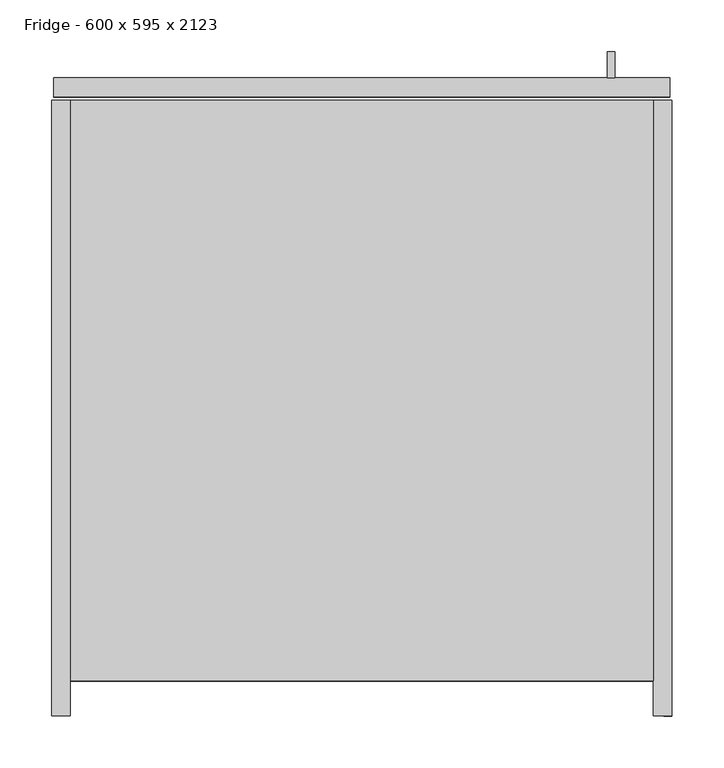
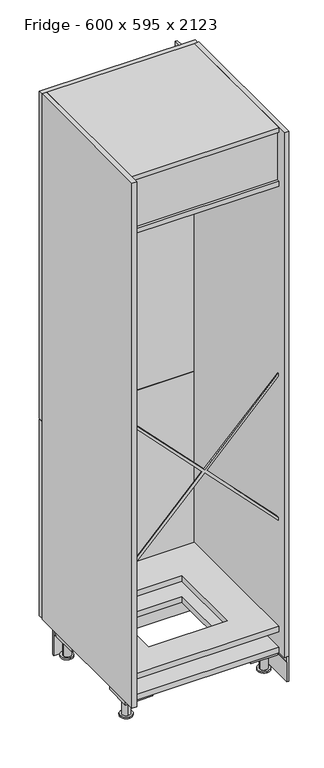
"""IFC4 building model written with IfcOpenShell, lengths in millimetres: furniture geometry, Furniture_Other-Furniture_Molteni&C_Prime_Fridge : Fridge - 600 x 595 x 2123."""

from ifc_helpers import new_model, si_unit, frame, origin, place, context, project, spatial, polyline, circle_curve, outline, extrude, source, transform, mapped, element, save
from ifc_brep_helpers import plane_surface, cylinder_surface, advanced_brep


def fridge_600_x_595_x_2123_014d46ee(model_context):
    return source(origin(), model_context, "Body", "SolidModel", [
        extrude(outline(polyline([(0.0, 292.0), (0.0, 300.0), (80.0, 300.0), (80.0, 299.0), (100.0, 299.0), (100.0, 293.0), (80.0, 293.0), (80.0, 292.0), (0.0, 292.0)])), frame((0.0, -297.5, 0.0), z_axis=(0.0, 1.0, 0.0), x_axis=(0.0, 0.0, 1.0)), (0.0, 0.0, 1.0), 516.9860925),
        advanced_brep(
        [(-263.495948, -172.491896, 0.0), (-263.495948, -219.5, 0.0), (-263.0, -180.5, 76.0), (-263.0, -210.5, 76.0), (-263.0, -210.5, 6.1757403), (-263.0, -180.5, 6.1757403), (-263.495948, -172.491896, 6.1757403), (-263.495948, -219.5, 6.1757403), (-292.0, -136.312623, 100.0), (-292.0, -240.9561273, 100.0), (-186.5940013, -240.9561273, 100.0), (-186.5940013, -210.912623, 100.0), (-261.1940013, -136.312623, 100.0), (-292.0, -136.312623, 76.0), (-261.1940013, -136.312623, 76.0), (-186.5940013, -210.912623, 76.0), (-186.5940013, -240.9561273, 76.0), (-292.0, -240.9561273, 76.0)],
        [
            (0, 1, circle_curve(frame((-263.495948, -195.995948, 0.0), z_axis=(0.0, 0.0, -1.0), x_axis=(1.0, 0.0, 0.0)), 23.504052)),
            (1, 0, circle_curve(frame((-263.495948, -195.995948, 0.0), z_axis=(0.0, 0.0, -1.0), x_axis=(1.0, 0.0, 0.0)), 23.504052)),
            (2, 3, circle_curve(frame((-263.0, -195.5, 76.0), z_axis=(0.0, 0.0, -1.0), x_axis=(1.0, 0.0, 0.0)), 15.0)),
            (3, 4),
            (4, 5, circle_curve(frame((-263.0, -195.5, 6.1757403), z_axis=(0.0, 0.0, 1.0), x_axis=(1.0, 0.0, 0.0)), 15.0)),
            (5, 2),
            (5, 4, circle_curve(frame((-263.0, -195.5, 6.1757403), z_axis=(0.0, 0.0, 1.0), x_axis=(1.0, 0.0, 0.0)), 15.0)),
            (3, 2, circle_curve(frame((-263.0, -195.5, 76.0), z_axis=(0.0, 0.0, -1.0), x_axis=(1.0, 0.0, 0.0)), 15.0)),
            (6, 7, circle_curve(frame((-263.495948, -195.995948, 6.1757403), z_axis=(0.0, 0.0, 1.0), x_axis=(1.0, 0.0, 0.0)), 23.504052)),
            (7, 6, circle_curve(frame((-263.495948, -195.995948, 6.1757403), z_axis=(0.0, 0.0, 1.0), x_axis=(1.0, 0.0, 0.0)), 23.504052)),
            (7, 1),
            (0, 6),
            (8, 9),
            (9, 10),
            (10, 11),
            (11, 12),
            (12, 8),
            (13, 14),
            (14, 15),
            (15, 16),
            (16, 17),
            (17, 13),
            (12, 14),
            (13, 8),
            (11, 15),
            (10, 16),
            (9, 17),
        ],
        [
            plane_surface(frame((-248.0, -195.5, 0.0), z_axis=(0.0, 0.0, -1.0), x_axis=(0.0, 1.0, 0.0))),
            cylinder_surface(frame((-263.0, -195.5, 0.0), z_axis=(0.0, 0.0, 1.0), x_axis=(1.0, 0.0, 0.0)), 15.0),
            plane_surface(frame((-239.991896, -195.995948, 6.1757403), z_axis=(0.0, 0.0, 1.0), x_axis=(0.0, -1.0, 0.0))),
            cylinder_surface(frame((-263.495948, -195.995948, 0.0), z_axis=(0.0, 0.0, 1.0), x_axis=(1.0, 0.0, 0.0)), 23.504052),
            plane_surface(frame((-292.0, -136.312623, 100.0), z_axis=(0.0, 0.0, 1.0), x_axis=(1.0, 0.0, 0.0))),
            plane_surface(frame((-292.0, -136.312623, 76.0), z_axis=(0.0, 0.0, -1.0), x_axis=(-1.0, 0.0, 0.0))),
            plane_surface(frame((-292.0, -136.312623, 100.0), z_axis=(0.0, 1.0, 0.0), x_axis=(0.0, 0.0, -1.0))),
            plane_surface(frame((-261.1940013, -136.312623, 100.0), z_axis=(0.7071067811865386, 0.7071067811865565, 0.0), x_axis=(0.0, 0.0, -1.0))),
            plane_surface(frame((-186.5940013, -210.912623, 100.0), z_axis=(1.0, 0.0, 0.0), x_axis=(0.0, 0.0, -1.0))),
            plane_surface(frame((-186.5940013, -240.9561273, 100.0), z_axis=(0.0, -1.0, 0.0), x_axis=(0.0, 0.0, -1.0))),
            plane_surface(frame((-292.0, -240.9561273, 100.0), z_axis=(-1.0, 0.0, 0.0), x_axis=(0.0, 0.0, -1.0))),
        ],
        [
            (0, [[1, 2]]),
            (1, [[3, 4, 5, 6]]),
            (1, [[7, -4, 8, -6]]),
            (2, [[9, 10], [-7, -5]]),
            (3, [[11, -1, 12, -10]]),
            (3, [[-12, -2, -11, -9]]),
            (4, [[13, 14, 15, 16, 17]]),
            (5, [[18, 19, 20, 21, 22], [-8, -3]]),
            (6, [[23, -18, 24, -17]]),
            (7, [[25, -19, -23, -16]]),
            (8, [[26, -20, -25, -15]]),
            (9, [[27, -21, -26, -14]]),
            (10, [[-24, -22, -27, -13]]),
        ],
    ),
        advanced_brep(
        [(263.0, -172.0, 0.0), (263.0, -219.008104, 0.0), (248.0, -195.5, 76.0), (278.0, -195.5, 76.0), (278.0, -195.5, 6.1757403), (248.0, -195.5, 6.1757403), (263.0, -172.0, 6.1757403), (263.0, -219.008104, 6.1757403), (292.0, -136.312623, 100.0), (262.8059987, -136.312623, 100.0), (188.2059987, -210.912623, 100.0), (188.2059987, -240.9561273, 100.0), (292.0, -240.9561273, 100.0), (292.0, -136.312623, 76.0), (292.0, -240.9561273, 76.0), (188.2059987, -240.9561273, 76.0), (188.2059987, -210.912623, 76.0), (262.8059987, -136.312623, 76.0)],
        [
            (0, 1, circle_curve(frame((263.0, -195.504052, 0.0), z_axis=(0.0, 0.0, -1.0), x_axis=(1.0, 0.0, 0.0)), 23.504052)),
            (1, 0, circle_curve(frame((263.0, -195.504052, 0.0), z_axis=(0.0, 0.0, -1.0), x_axis=(1.0, 0.0, 0.0)), 23.504052)),
            (2, 3, circle_curve(frame((263.0, -195.5, 76.0), z_axis=(0.0, 0.0, -1.0), x_axis=(1.0, 0.0, 0.0)), 15.0)),
            (3, 4),
            (4, 5, circle_curve(frame((263.0, -195.5, 6.1757403), z_axis=(0.0, 0.0, 1.0), x_axis=(1.0, 0.0, 0.0)), 15.0)),
            (5, 2),
            (5, 4, circle_curve(frame((263.0, -195.5, 6.1757403), z_axis=(0.0, 0.0, 1.0), x_axis=(1.0, 0.0, 0.0)), 15.0)),
            (3, 2, circle_curve(frame((263.0, -195.5, 76.0), z_axis=(0.0, 0.0, -1.0), x_axis=(1.0, 0.0, 0.0)), 15.0)),
            (6, 7, circle_curve(frame((263.0, -195.504052, 6.1757403), z_axis=(0.0, 0.0, 1.0), x_axis=(1.0, 0.0, 0.0)), 23.504052)),
            (7, 6, circle_curve(frame((263.0, -195.504052, 6.1757403), z_axis=(0.0, 0.0, 1.0), x_axis=(1.0, 0.0, 0.0)), 23.504052)),
            (7, 1),
            (0, 6),
            (8, 9),
            (9, 10),
            (10, 11),
            (11, 12),
            (12, 8),
            (13, 14),
            (14, 15),
            (15, 16),
            (16, 17),
            (17, 13),
            (12, 14),
            (13, 8),
            (11, 15),
            (10, 16),
            (9, 17),
        ],
        [
            plane_surface(frame((-248.0, -195.5, 0.0), z_axis=(0.0, 0.0, -1.0), x_axis=(0.0, 1.0, 0.0))),
            cylinder_surface(frame((263.0, -195.5, 0.0), z_axis=(0.0, 0.0, 1.0), x_axis=(1.0, 0.0, 0.0)), 15.0),
            plane_surface(frame((-239.991896, -195.995948, 6.1757403), z_axis=(0.0, 0.0, 1.0), x_axis=(0.0, -1.0, 0.0))),
            cylinder_surface(frame((263.0, -195.504052, 0.0), z_axis=(0.0, 0.0, 1.0), x_axis=(1.0, 0.0, 0.0)), 23.504052),
            plane_surface(frame((-292.0, -136.312623, 100.0), z_axis=(0.0, 0.0, 1.0), x_axis=(1.0, 0.0, 0.0))),
            plane_surface(frame((-292.0, -136.312623, 76.0), z_axis=(0.0, 0.0, -1.0), x_axis=(-1.0, 0.0, 0.0))),
            plane_surface(frame((292.0, -136.312623, 100.0), z_axis=(1.0, 0.0, 0.0), x_axis=(0.0, 0.0, -1.0))),
            plane_surface(frame((292.0, -240.9561273, 100.0), z_axis=(0.0, -1.0, 0.0), x_axis=(0.0, 0.0, -1.0))),
            plane_surface(frame((188.2059987, -240.9561273, 100.0), z_axis=(-1.0, 0.0, 0.0), x_axis=(0.0, 0.0, -1.0))),
            plane_surface(frame((188.2059987, -210.912623, 100.0), z_axis=(-0.7071067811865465, 0.7071067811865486, 0.0), x_axis=(0.0, 0.0, -1.0))),
            plane_surface(frame((262.8059987, -136.312623, 100.0), z_axis=(0.0, 1.0, 0.0), x_axis=(0.0, 0.0, -1.0))),
        ],
        [
            (0, [[1, 2]]),
            (1, [[3, 4, 5, 6]]),
            (1, [[7, -4, 8, -6]]),
            (2, [[9, 10], [-7, -5]]),
            (3, [[11, -1, 12, -10]]),
            (3, [[-12, -2, -11, -9]]),
            (4, [[13, 14, 15, 16, 17]]),
            (5, [[18, 19, 20, 21, 22], [-8, -3]]),
            (6, [[23, -18, 24, -17]]),
            (7, [[25, -19, -23, -16]]),
            (8, [[26, -20, -25, -15]]),
            (9, [[27, -21, -26, -14]]),
            (10, [[-24, -22, -27, -13]]),
        ],
    ),
        advanced_brep(
        [(262.995943, 218.9917989, 0.0), (262.995943, 171.9836949, 0.0), (248.0, 195.5, 76.0), (278.0, 195.5, 76.0), (278.0, 195.5, 6.1757403), (248.0, 195.5, 6.1757403), (262.995943, 218.9917989, 6.1757403), (262.995943, 171.9836949, 6.1757403), (292.0, 219.4860925, 100.0), (188.2059987, 219.4860925, 100.0), (188.2059987, 189.8435677, 100.0), (262.8059987, 115.2435677, 100.0), (292.0, 115.2435677, 100.0), (292.0, 219.4860925, 76.0), (292.0, 115.2435677, 76.0), (262.8059987, 115.2435677, 76.0), (188.2059987, 189.8435677, 76.0), (188.2059987, 219.4860925, 76.0)],
        [
            (0, 1, circle_curve(frame((262.995943, 195.4877469, 0.0), z_axis=(0.0, 0.0, -1.0), x_axis=(1.0, 0.0, 0.0)), 23.504052)),
            (1, 0, circle_curve(frame((262.995943, 195.4877469, 0.0), z_axis=(0.0, 0.0, -1.0), x_axis=(1.0, 0.0, 0.0)), 23.504052)),
            (2, 3, circle_curve(frame((263.0, 195.5, 76.0), z_axis=(0.0, 0.0, -1.0), x_axis=(1.0, 0.0, 0.0)), 15.0)),
            (3, 4),
            (4, 5, circle_curve(frame((263.0, 195.5, 6.1757403), z_axis=(0.0, 0.0, 1.0), x_axis=(1.0, 0.0, 0.0)), 15.0)),
            (5, 2),
            (5, 4, circle_curve(frame((263.0, 195.5, 6.1757403), z_axis=(0.0, 0.0, 1.0), x_axis=(1.0, 0.0, 0.0)), 15.0)),
            (3, 2, circle_curve(frame((263.0, 195.5, 76.0), z_axis=(0.0, 0.0, -1.0), x_axis=(1.0, 0.0, 0.0)), 15.0)),
            (6, 7, circle_curve(frame((262.995943, 195.4877469, 6.1757403), z_axis=(0.0, 0.0, 1.0), x_axis=(1.0, 0.0, 0.0)), 23.504052)),
            (7, 6, circle_curve(frame((262.995943, 195.4877469, 6.1757403), z_axis=(0.0, 0.0, 1.0), x_axis=(1.0, 0.0, 0.0)), 23.504052)),
            (7, 1),
            (0, 6),
            (8, 9),
            (9, 10),
            (10, 11),
            (11, 12),
            (12, 8),
            (13, 14),
            (14, 15),
            (15, 16),
            (16, 17),
            (17, 13),
            (12, 14),
            (13, 8),
            (11, 15),
            (10, 16),
            (9, 17),
        ],
        [
            plane_surface(frame((-248.0, -195.5, 0.0), z_axis=(0.0, 0.0, -1.0), x_axis=(0.0, 1.0, 0.0))),
            cylinder_surface(frame((263.0, 195.5, 0.0), z_axis=(0.0, 0.0, 1.0), x_axis=(1.0, 0.0, 0.0)), 15.0),
            plane_surface(frame((-239.991896, -195.995948, 6.1757403), z_axis=(0.0, 0.0, 1.0), x_axis=(0.0, -1.0, 0.0))),
            cylinder_surface(frame((262.995943, 195.4877469, 0.0), z_axis=(0.0, 0.0, 1.0), x_axis=(1.0, 0.0, 0.0)), 23.504052),
            plane_surface(frame((-292.0, -136.312623, 100.0), z_axis=(0.0, 0.0, 1.0), x_axis=(1.0, 0.0, 0.0))),
            plane_surface(frame((-292.0, -136.312623, 76.0), z_axis=(0.0, 0.0, -1.0), x_axis=(-1.0, 0.0, 0.0))),
            plane_surface(frame((292.0, 219.4860925, 100.0), z_axis=(1.0, 0.0, 0.0), x_axis=(0.0, 0.0, -1.0))),
            plane_surface(frame((292.0, 115.2435677, 100.0), z_axis=(0.0, -1.0, 0.0), x_axis=(0.0, 0.0, -1.0))),
            plane_surface(frame((262.8059987, 115.2435677, 100.0), z_axis=(-0.7071067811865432, -0.7071067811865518, 0.0), x_axis=(0.0, 0.0, -1.0))),
            plane_surface(frame((188.2059987, 189.8435677, 100.0), z_axis=(-1.0, 0.0, 0.0), x_axis=(0.0, 0.0, -1.0))),
            plane_surface(frame((188.2059987, 219.4860925, 100.0), z_axis=(0.0, 1.0, 0.0), x_axis=(0.0, 0.0, -1.0))),
        ],
        [
            (0, [[1, 2]]),
            (1, [[3, 4, 5, 6]]),
            (1, [[7, -4, 8, -6]]),
            (2, [[9, 10], [-7, -5]]),
            (3, [[11, -1, 12, -10]]),
            (3, [[-12, -2, -11, -9]]),
            (4, [[13, 14, 15, 16, 17]]),
            (5, [[18, 19, 20, 21, 22], [-8, -3]]),
            (6, [[23, -18, 24, -17]]),
            (7, [[25, -19, -23, -16]]),
            (8, [[26, -20, -25, -15]]),
            (9, [[27, -21, -26, -14]]),
            (10, [[-24, -22, -27, -13]]),
        ],
    ),
        advanced_brep(
        [(-263.495948, 172.491896, 0.0), (-263.495948, 219.5, 0.0), (-278.0, 195.5, 76.0), (-248.0, 195.5, 76.0), (-248.0, 195.5, 6.1757403), (-278.0, 195.5, 6.1757403), (-263.495948, 172.491896, 6.1757403), (-263.495948, 219.5, 6.1757403), (-292.0, 219.4860925, 100.0), (-292.0, 115.2435677, 100.0), (-261.1940013, 115.2435677, 100.0), (-186.5940013, 189.8435677, 100.0), (-186.5940013, 219.4860925, 100.0), (-292.0, 219.4860925, 76.0), (-186.5940013, 219.4860925, 76.0), (-186.5940013, 189.8435677, 76.0), (-261.1940013, 115.2435677, 76.0), (-292.0, 115.2435677, 76.0)],
        [
            (0, 1, circle_curve(frame((-263.495948, 195.995948, 0.0), z_axis=(0.0, 0.0, -1.0), x_axis=(1.0, 0.0, 0.0)), 23.504052)),
            (1, 0, circle_curve(frame((-263.495948, 195.995948, 0.0), z_axis=(0.0, 0.0, -1.0), x_axis=(1.0, 0.0, 0.0)), 23.504052)),
            (2, 3, circle_curve(frame((-263.0, 195.5, 76.0), z_axis=(0.0, 0.0, -1.0), x_axis=(1.0, 0.0, 0.0)), 15.0)),
            (3, 4),
            (4, 5, circle_curve(frame((-263.0, 195.5, 6.1757403), z_axis=(0.0, 0.0, 1.0), x_axis=(1.0, 0.0, 0.0)), 15.0)),
            (5, 2),
            (5, 4, circle_curve(frame((-263.0, 195.5, 6.1757403), z_axis=(0.0, 0.0, 1.0), x_axis=(1.0, 0.0, 0.0)), 15.0)),
            (3, 2, circle_curve(frame((-263.0, 195.5, 76.0), z_axis=(0.0, 0.0, -1.0), x_axis=(1.0, 0.0, 0.0)), 15.0)),
            (6, 7, circle_curve(frame((-263.495948, 195.995948, 6.1757403), z_axis=(0.0, 0.0, 1.0), x_axis=(1.0, 0.0, 0.0)), 23.504052)),
            (7, 6, circle_curve(frame((-263.495948, 195.995948, 6.1757403), z_axis=(0.0, 0.0, 1.0), x_axis=(1.0, 0.0, 0.0)), 23.504052)),
            (7, 1),
            (0, 6),
            (8, 9),
            (9, 10),
            (10, 11),
            (11, 12),
            (12, 8),
            (13, 14),
            (14, 15),
            (15, 16),
            (16, 17),
            (17, 13),
            (12, 14),
            (13, 8),
            (11, 15),
            (10, 16),
            (9, 17),
        ],
        [
            plane_surface(frame((-248.0, -195.5, 0.0), z_axis=(0.0, 0.0, -1.0), x_axis=(0.0, 1.0, 0.0))),
            cylinder_surface(frame((-263.0, 195.5, 0.0), z_axis=(0.0, 0.0, 1.0), x_axis=(1.0, 0.0, 0.0)), 15.0),
            plane_surface(frame((-239.991896, -195.995948, 6.1757403), z_axis=(0.0, 0.0, 1.0), x_axis=(0.0, -1.0, 0.0))),
            cylinder_surface(frame((-263.495948, 195.995948, 0.0), z_axis=(0.0, 0.0, 1.0), x_axis=(1.0, 0.0, 0.0)), 23.504052),
            plane_surface(frame((-292.0, -136.312623, 100.0), z_axis=(0.0, 0.0, 1.0), x_axis=(1.0, 0.0, 0.0))),
            plane_surface(frame((-292.0, -136.312623, 76.0), z_axis=(0.0, 0.0, -1.0), x_axis=(-1.0, 0.0, 0.0))),
            plane_surface(frame((-292.0, 219.4860925, 100.0), z_axis=(0.0, 1.0, 0.0), x_axis=(0.0, 0.0, -1.0))),
            plane_surface(frame((-186.5940013, 219.4860925, 100.0), z_axis=(1.0, 0.0, 0.0), x_axis=(0.0, 0.0, -1.0))),
            plane_surface(frame((-186.5940013, 189.8435677, 100.0), z_axis=(0.7071067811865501, -0.7071067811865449, 0.0), x_axis=(0.0, 0.0, -1.0))),
            plane_surface(frame((-261.1940013, 115.2435677, 100.0), z_axis=(0.0, -1.0, 0.0), x_axis=(0.0, 0.0, -1.0))),
            plane_surface(frame((-292.0, 115.2435677, 100.0), z_axis=(-1.0, 0.0, 0.0), x_axis=(0.0, 0.0, -1.0))),
        ],
        [
            (0, [[1, 2]]),
            (1, [[3, 4, 5, 6]]),
            (1, [[7, -4, 8, -6]]),
            (2, [[9, 10], [-7, -5]]),
            (3, [[11, -1, 12, -10]]),
            (3, [[-12, -2, -11, -9]]),
            (4, [[13, 14, 15, 16, 17]]),
            (5, [[18, 19, 20, 21, 22], [-8, -3]]),
            (6, [[23, -18, 24, -17]]),
            (7, [[25, -19, -23, -16]]),
            (8, [[26, -20, -25, -15]]),
            (9, [[27, -21, -26, -14]]),
            (10, [[-24, -22, -27, -13]]),
        ],
    ),
        extrude(outline(polyline([(-300.0, 297.5), (-282.0, 297.5), (-282.0, -297.5), (-300.0, -297.5), (-300.0, 297.5)])), frame((0.0, 0.0, 100.0), z_axis=(0.0, 0.0, 1.0), x_axis=(1.0, 0.0, 0.0)), (0.0, 0.0, 1.0), 2123.0),
        extrude(outline(polyline([(-263.4750581, 2223.0), (297.5, 2223.0), (297.5, 2204.0129171), (-243.4750476, 2204.0129171), (-243.4750476, 2209.0129171), (-252.2750474, 2209.0129171), (-252.2750474, 2204.0129171), (-263.4750581, 2204.0129171), (-263.4750581, 2223.0)])), frame((-282.0, 0.0, 0.0), z_axis=(1.0, 0.0, 0.0), x_axis=(0.0, 1.0, 0.0)), (0.0, 0.0, 1.0), 564.0),
        extrude(outline(polyline([(-252.2750474, 2006.0129171), (-252.2750474, 2001.0129171), (-243.4750476, 2001.0129171), (-243.4750476, 2006.0129171), (297.5, 2006.0129171), (297.5, 1987.0129171), (-263.4750581, 1987.0129171), (-263.4750581, 2006.0129171), (-252.2750474, 2006.0129171)])), frame((-282.0, 0.0, 0.0), z_axis=(1.0, 0.0, 0.0), x_axis=(0.0, 1.0, 0.0)), (0.0, 0.0, 1.0), 564.0),
        extrude(outline(polyline([(-282.0, 297.5), (282.0, 297.5), (282.0, -263.4750581), (-282.0, -263.4750581), (-282.0, 297.5)]), holes=[polyline([(150.0, -150.0), (150.0, 150.0), (-150.0, 150.0), (-150.0, -150.0), (150.0, -150.0)])]), frame((0.0, 0.0, 185.0), z_axis=(0.0, 0.0, 1.0), x_axis=(1.0, 0.0, 0.0)), (0.0, 0.0, 1.0), 22.0),
        extrude(outline(polyline([(-282.0, 297.5), (282.0, 297.5), (282.0, -263.4750581), (-282.0, -263.4750581), (-282.0, 297.5)]), holes=[polyline([(150.0, -150.0), (150.0, 150.0), (-150.0, 150.0), (-150.0, -150.0), (150.0, -150.0)])]), frame((0.0, 0.0, 100.0), z_axis=(0.0, 0.0, 1.0), x_axis=(1.0, 0.0, 0.0)), (0.0, 0.0, 1.0), 22.0),
        extrude(outline(polyline([(282.0, -252.2750474), (-282.0, -252.2750474), (-282.0, -243.4750476), (282.0, -243.4750476), (282.0, -252.2750474)])), frame((0.0, 0.0, 2001.0129171), z_axis=(0.0, 0.0, 1.0), x_axis=(1.0, 0.0, 0.0)), (0.0, 0.0, 1.0), 208.0),
        extrude(outline(polyline([(930.7723679, -7.9207322), (646.6505213, -282.0), (633.7568707, -282.0), (924.3255426, 0.0), (633.7568707, 282.0), (646.6505213, 282.0), (930.7723679, 7.9207322), (1214.8942146, 282.0), (1227.7878652, 282.0), (937.2191933, 0.0), (1227.7878652, -282.0), (1214.8942146, -282.0), (930.7723679, -7.9207322)])), frame((0.0, -259.5, 0.0), z_axis=(0.0, 1.0, 0.0), x_axis=(0.0, 0.0, 1.0)), (0.0, 0.0, 1.0), 5.0),
        extrude(outline(polyline([(227.4860925, 80.0), (227.4860925, 0.0), (219.4860925, 0.0), (219.4860925, 80.0), (220.4860925, 80.0), (220.4860925, 100.0), (226.4860925, 100.0), (226.4860925, 80.0), (227.4860925, 80.0)])), frame((-300.0, 0.0, 0.0), z_axis=(1.0, 0.0, 0.0), x_axis=(0.0, 1.0, 0.0)), (0.0, 0.0, 1.0), 600.0),
        extrude(outline(polyline([(282.0, 297.5), (300.0, 297.5), (300.0, -297.5), (282.0, -297.5), (282.0, 297.5)])), frame((0.0, 0.0, 100.0), z_axis=(0.0, 0.0, 1.0), x_axis=(1.0, 0.0, 0.0)), (0.0, 0.0, 1.0), 2123.0),
        extrude(outline(polyline([(244.6588802, 319.5249253), (237.5, 319.5249253), (237.5, 344.5249253), (244.6588802, 344.5249253), (244.6588802, 319.5249253)])), frame((0.0, 0.0, 100.0), z_axis=(0.0, 0.0, 1.0), x_axis=(1.0, 0.0, 0.0)), (0.0, 0.0, 1.0), 794.0),
        extrude(outline(polyline([(244.6588802, 319.5249253), (237.5, 319.5249253), (237.5, 344.5249253), (244.6588802, 344.5249253), (244.6588802, 319.5249253)])), frame((0.0, 0.0, 897.0), z_axis=(0.0, 0.0, 1.0), x_axis=(1.0, 0.0, 0.0)), (0.0, 0.0, 1.0), 1322.0),
        extrude(outline(polyline([(298.0, 300.8241379), (-298.0, 300.8241379), (-298.0, 319.5249253), (298.0, 319.5249253), (298.0, 300.8241379)])), frame((0.0, 0.0, 897.0), z_axis=(0.0, 0.0, 1.0), x_axis=(1.0, 0.0, 0.0)), (0.0, 0.0, 1.0), 1322.0),
        extrude(outline(polyline([(298.0, 300.8241379), (-298.0, 300.8241379), (-298.0, 319.5007874), (298.0, 319.5007874), (298.0, 300.8241379)])), frame((0.0, 0.0, 100.0), z_axis=(0.0, 0.0, 1.0), x_axis=(1.0, 0.0, 0.0)), (0.0, 0.0, 1.0), 794.0),
    ])


if __name__ == "__main__":
    model = new_model("IFC4")
    model_context = context("Model", 3, world=origin())
    ifc_project = project(units=[si_unit("LENGTHUNIT", "METRE", prefix="MILLI")], contexts=[model_context])
    site = spatial("IfcSite", under=ifc_project)
    building = spatial("IfcBuilding", under=site)
    placement = place(None, origin())
    fridge_600_x_595_x_2123_shape = fridge_600_x_595_x_2123_014d46ee(model_context)
    element("IfcFurniture", 1, ObjectType="Furniture_Other-Furniture_Molteni&C_Prime_Fridge : Fridge - 600 x 595 x 2123", at=placement, inside=building, context=model_context, shape_type="MappedRepresentation", body=[
        mapped(fridge_600_x_595_x_2123_shape, transform((0.0, 0.0, 0.0), x_axis=(1.0, 0.0, 0.0), y_axis=(0.0, 1.0, 0.0), z_axis=(0.0, 0.0, 1.0))),
    ])
    save(model, "model.ifc")
